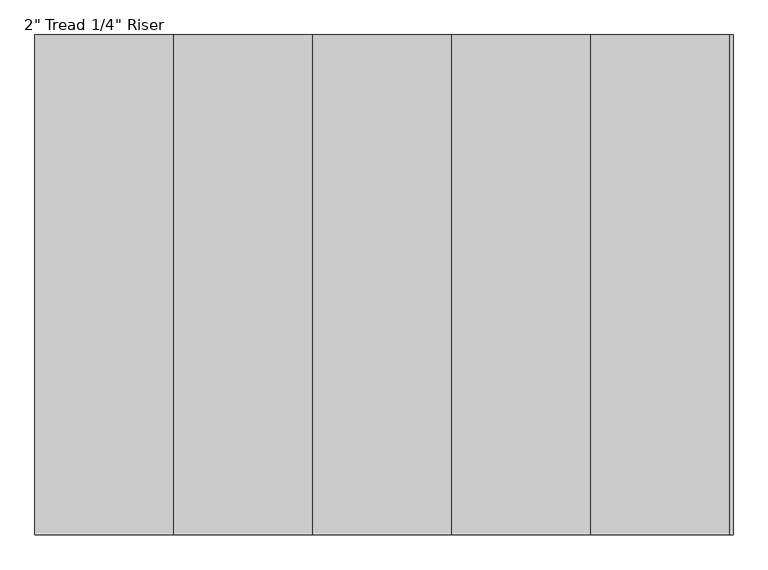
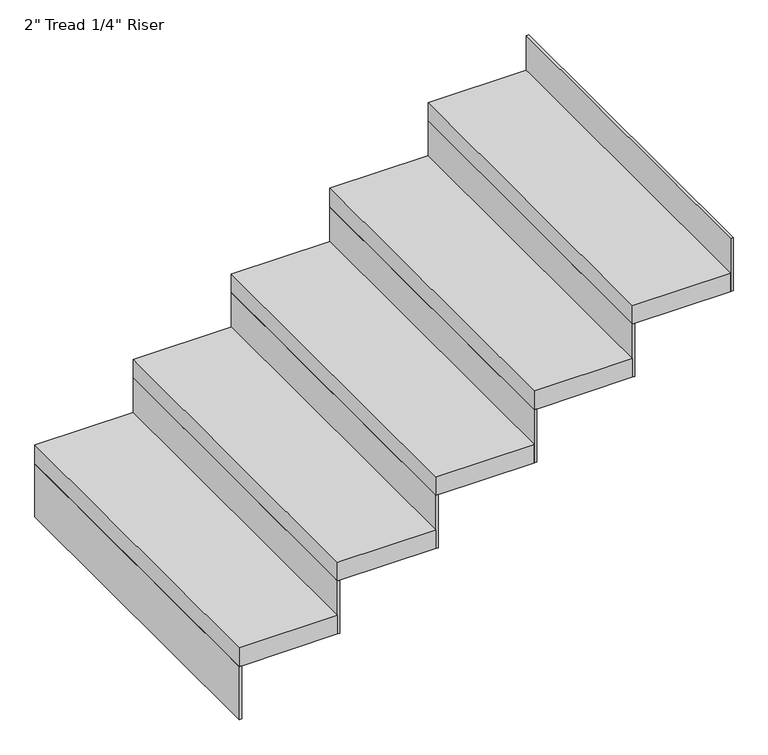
"""IFC4 building model written with IfcOpenShell, lengths in millimetres: stair flight geometry."""

from ifc_helpers import new_model, si_unit, frame, origin, place, context, project, spatial, polyline, outline, extrude, source, transform, mapped, element, save


def stair_flight_8d589d51(model_context):
    return source(origin(), model_context, "Body", "SweptSolid", [
        extrude(outline(polyline([(2425.7036861, 28700.5361774), (2419.3536861, 28700.5361774), (2419.3536861, 29614.9361774), (2425.7036861, 29614.9361774), (2425.7036861, 28700.5361774)])), frame((0.0, 0.0, 2126.3428571), z_axis=(0.0, 0.0, 1.0), x_axis=(1.0, 0.0, 0.0)), (0.0, 0.0, 1.0), 145.1428571),
        extrude(outline(polyline([(2673.3536861, 29614.9361774), (2673.3536861, 28700.5361774), (2419.3536861, 28700.5361774), (2419.3536861, 29614.9361774), (2673.3536861, 29614.9361774)])), frame((0.0, 0.0, 2271.4857143), z_axis=(0.0, 0.0, 1.0), x_axis=(1.0, 0.0, 0.0)), (0.0, 0.0, 1.0), 50.8),
        extrude(outline(polyline([(2679.7036861, 28700.5361774), (2673.3536861, 28700.5361774), (2673.3536861, 29614.9361774), (2679.7036861, 29614.9361774), (2679.7036861, 28700.5361774)])), frame((0.0, 0.0, 2271.4857143), z_axis=(0.0, 0.0, 1.0), x_axis=(1.0, 0.0, 0.0)), (0.0, 0.0, 1.0), 145.1428571),
        extrude(outline(polyline([(2927.3536861, 29614.9361774), (2927.3536861, 28700.5361774), (2673.3536861, 28700.5361774), (2673.3536861, 29614.9361774), (2927.3536861, 29614.9361774)])), frame((0.0, 0.0, 2416.6285714), z_axis=(0.0, 0.0, 1.0), x_axis=(1.0, 0.0, 0.0)), (0.0, 0.0, 1.0), 50.8),
        extrude(outline(polyline([(2933.7036861, 28700.5361774), (2927.3536861, 28700.5361774), (2927.3536861, 29614.9361774), (2933.7036861, 29614.9361774), (2933.7036861, 28700.5361774)])), frame((0.0, 0.0, 2416.6285714), z_axis=(0.0, 0.0, 1.0), x_axis=(1.0, 0.0, 0.0)), (0.0, 0.0, 1.0), 145.1428571),
        extrude(outline(polyline([(3181.3536861, 29614.9361774), (3181.3536861, 28700.5361774), (2927.3536861, 28700.5361774), (2927.3536861, 29614.9361774), (3181.3536861, 29614.9361774)])), frame((0.0, 0.0, 2561.7714286), z_axis=(0.0, 0.0, 1.0), x_axis=(1.0, 0.0, 0.0)), (0.0, 0.0, 1.0), 50.8),
        extrude(outline(polyline([(3187.7036861, 28700.5361774), (3181.3536861, 28700.5361774), (3181.3536861, 29614.9361774), (3187.7036861, 29614.9361774), (3187.7036861, 28700.5361774)])), frame((0.0, 0.0, 2561.7714286), z_axis=(0.0, 0.0, 1.0), x_axis=(1.0, 0.0, 0.0)), (0.0, 0.0, 1.0), 145.1428571),
        extrude(outline(polyline([(3435.3536861, 29614.9361774), (3435.3536861, 28700.5361774), (3181.3536861, 28700.5361774), (3181.3536861, 29614.9361774), (3435.3536861, 29614.9361774)])), frame((0.0, 0.0, 2706.9142857), z_axis=(0.0, 0.0, 1.0), x_axis=(1.0, 0.0, 0.0)), (0.0, 0.0, 1.0), 50.8),
        extrude(outline(polyline([(3441.7036861, 28700.5361774), (3435.3536861, 28700.5361774), (3435.3536861, 29614.9361774), (3441.7036861, 29614.9361774), (3441.7036861, 28700.5361774)])), frame((0.0, 0.0, 2706.9142857), z_axis=(0.0, 0.0, 1.0), x_axis=(1.0, 0.0, 0.0)), (0.0, 0.0, 1.0), 145.1428571),
        extrude(outline(polyline([(3695.7036861, 28700.5361774), (3689.3536861, 28700.5361774), (3689.3536861, 29614.9361774), (3695.7036861, 29614.9361774), (3695.7036861, 28700.5361774)])), frame((0.0, 0.0, 2852.0571429), z_axis=(0.0, 0.0, 1.0), x_axis=(1.0, 0.0, 0.0)), (0.0, 0.0, 1.0), 145.1428571),
        extrude(outline(polyline([(3689.3536861, 29614.9361774), (3689.3536861, 28700.5361774), (3435.3536861, 28700.5361774), (3435.3536861, 29614.9361774), (3689.3536861, 29614.9361774)])), frame((0.0, 0.0, 2852.0571429), z_axis=(0.0, 0.0, 1.0), x_axis=(1.0, 0.0, 0.0)), (0.0, 0.0, 1.0), 50.8),
    ])


if __name__ == "__main__":
    model = new_model("IFC4")
    model_context = context("Model", 3, world=origin())
    ifc_project = project(units=[si_unit("LENGTHUNIT", "METRE", prefix="MILLI")], contexts=[model_context])
    site = spatial("IfcSite", under=ifc_project)
    building = spatial("IfcBuilding", under=site)
    placement = place(None, origin())
    stair_flight_shape = stair_flight_8d589d51(model_context)
    element("IfcStairFlight", 1, ObjectType="2\" Tread 1/4\" Riser", at=placement, inside=building, context=model_context, shape_type="MappedRepresentation", body=[
        mapped(stair_flight_shape, transform((0.0, 0.0, 0.0), x_axis=(1.0, 0.0, 0.0), y_axis=(0.0, 1.0, 0.0), z_axis=(0.0, 0.0, 1.0))),
    ])
    save(model, "model.ifc")
